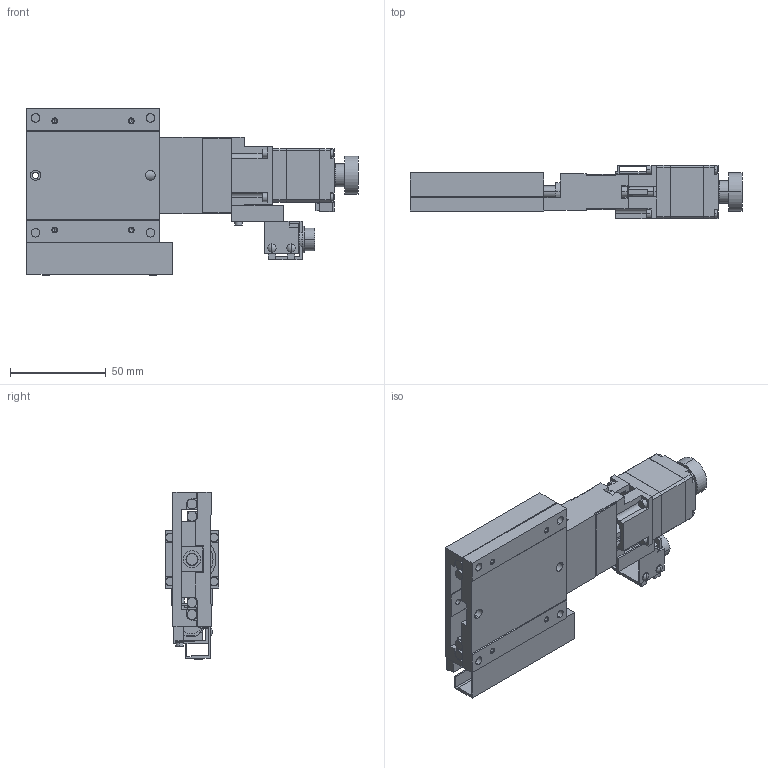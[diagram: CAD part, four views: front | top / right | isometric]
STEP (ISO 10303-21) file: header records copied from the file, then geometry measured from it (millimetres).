
FILE_DESCRIPTION(('STEP AP203'),'1');
FILE_NAME('C:/3D-Trans/3D_PG715M-R□-C4+231013.step','2023-10-13T07:21:52',(' '),(' '),'Spatial InterOp 3D',' ',' ');
FILE_SCHEMA(('CONFIG_CONTROL_DESIGN'));
Length unit declared in the file: millimetre
Products named in the file (6): 1; 2; 3; 4; 5; 6
Bounding box: 173.5 x 28 x 87.4 mm (x, y, z)
Volume: 132460.3 mm3; surface area: 65184.3 mm2
Topology: 6 solids, 6 shells, 757 faces, 1946 edges, 1235 vertices
Faces by surface type: plane 446, cylinder 231, cone 76, sphere 4
Entity records: 23250 total; most frequent: CARTESIAN_POINT 4108, DIRECTION 4030, ORIENTED_EDGE 3844, EDGE_CURVE 1922, AXIS2_PLACEMENT_3D 1353, LINE 1324, VECTOR 1324, VERTEX_POINT 1235
